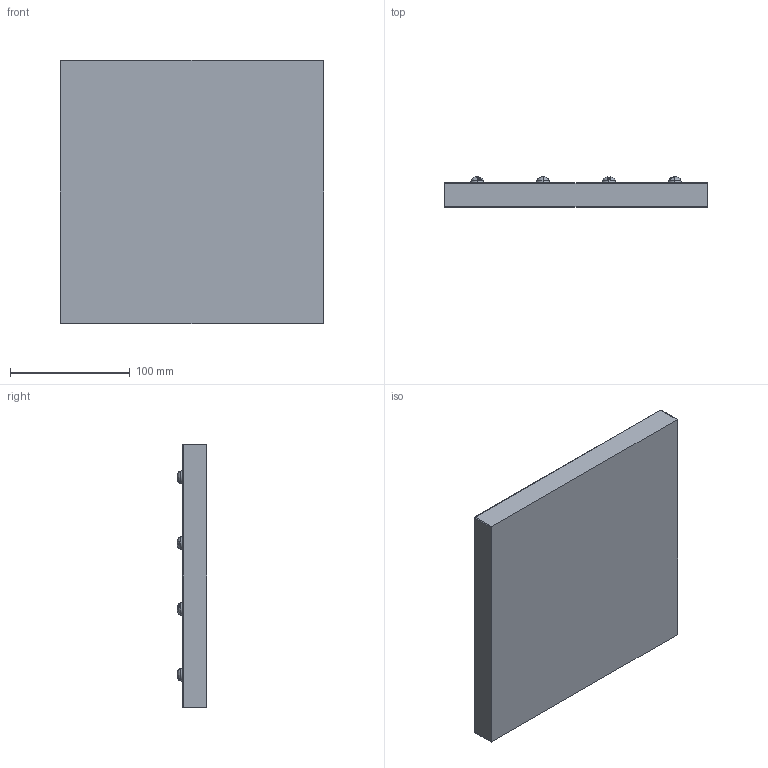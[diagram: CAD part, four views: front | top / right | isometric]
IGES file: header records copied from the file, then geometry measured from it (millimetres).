
Start section: SolidWorks IGES file using analytic representation for surfaces
Global section: file name: C:\Users\KAFLARNIA\Desktop\Modele CeramicWall\MODELE STRONA\Loft\Loft_22x22_IGES.IGS; native system: SolidWorks 2020; preprocessor: SolidWorks 2020; author: KAFLARNIA; date: 220530.140308; units: millimetre
Bounding box: 220 x 24.89 x 220 mm (x, y, z)
Surface area: 115503.4 mm2 (no closed solid volume)
Topology: 0 solids, 0 shells, 152 faces, 2235 edges, 2605 vertices
Faces by surface type: bspline 116, revolution 36
